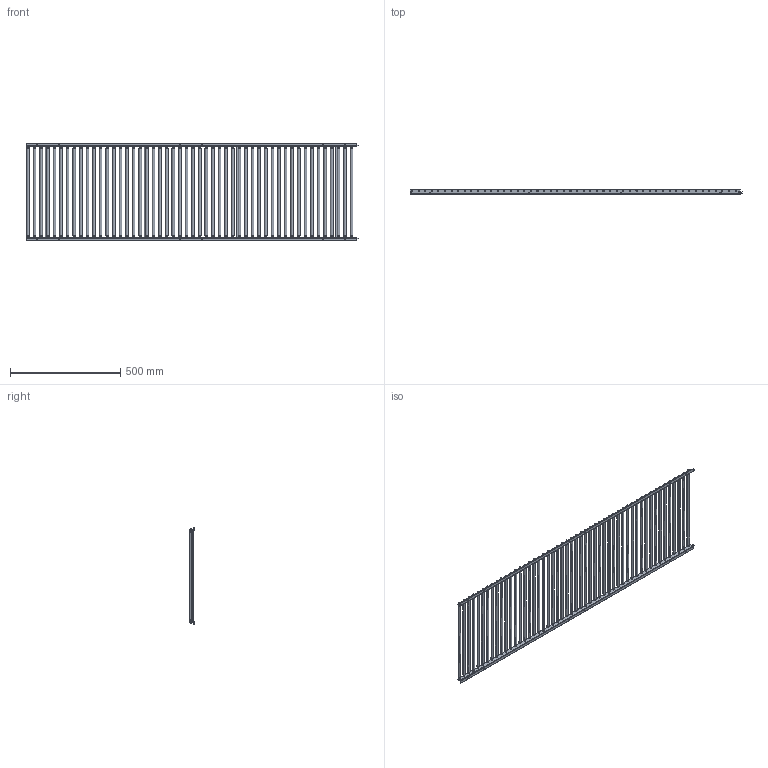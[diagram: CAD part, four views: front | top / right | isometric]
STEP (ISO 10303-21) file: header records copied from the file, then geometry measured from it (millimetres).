
FILE_DESCRIPTION (( 'STEP AP203' ), '1' );
FILE_NAME ('HG-RS1210.step', '2024-02-20T08:14:57', ( '' ), ( '' ), 'SwSTEP 2.0', 'SolidWorks 2023', '' );
FILE_SCHEMA (( 'CONFIG_CONTROL_DESIGN' ));
Length unit declared in the file: millimetre
Products named in the file (1): HG-RS1210
Bounding box: 1508 x 21 x 445 mm (x, y, z)
Volume: 2531714.9 mm3; surface area: 1679950.6 mm2
Topology: 116 solids, 116 shells, 1728 faces, 3668 edges, 2264 vertices
Faces by surface type: cylinder 816, plane 464, torus 400, cone 48
Entity records: 47591 total; most frequent: DIRECTION 9606, CARTESIAN_POINT 7629, ORIENTED_EDGE 7272, AXIS2_PLACEMENT_3D 4241, EDGE_CURVE 3636, CIRCLE 2512, VERTEX_POINT 2264, EDGE_LOOP 2208
